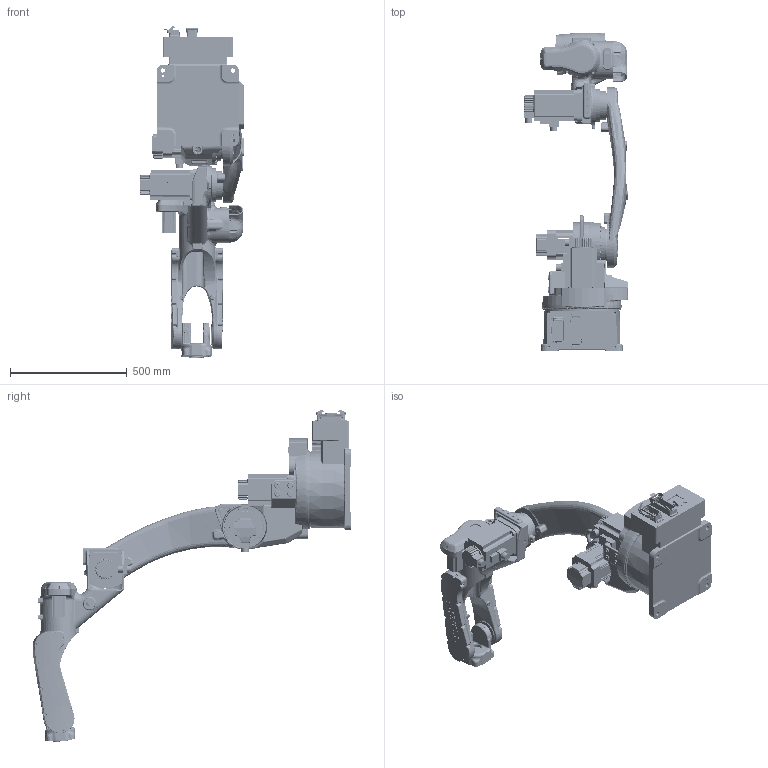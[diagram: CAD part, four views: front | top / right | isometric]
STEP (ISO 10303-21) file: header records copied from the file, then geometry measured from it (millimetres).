
FILE_DESCRIPTION (( 'STEP AP203' ), '1' );
FILE_NAME ('TKB1440.STEP', '2020-11-25T09:17:12', ( 'Alex' ), ( 'HP' ), 'SwSTEP 2.0', 'SolidWorks 2018', '' );
FILE_SCHEMA (( 'CONFIG_CONTROL_DESIGN' ));
Products named in the file (7): TKB1440-02; TKB1440-16; TKB1440-14; TKB1440-15; TKB1440-03; TKB1440-01; TKB1440
Assembly tree (6 placements, depth 2):
  TKB1440
    TKB1440-01
    TKB1440-03
    TKB1440-14
    TKB1440-15
    TKB1440-16
    TKB1440-02
Bounding box: 443.45 x 1364.18 x 1420.44 mm (x, y, z)
Volume: 3599738.3 mm3; surface area: 3627146.2 mm2
Topology: 1 solids, 119 shells, 5594 faces, 16714 edges, 10901 vertices
Faces by surface type: cylinder 2166, bspline 1519, plane 1331, torus 308, cone 223, sphere 47
Entity records: 363575 total; most frequent: CARTESIAN_POINT 226062, ORIENTED_EDGE 29126, DIRECTION 25905, EDGE_CURVE 16592, VERTEX_POINT 10895, AXIS2_PLACEMENT_3D 9980, EDGE_LOOP 6205, VECTOR 5945
